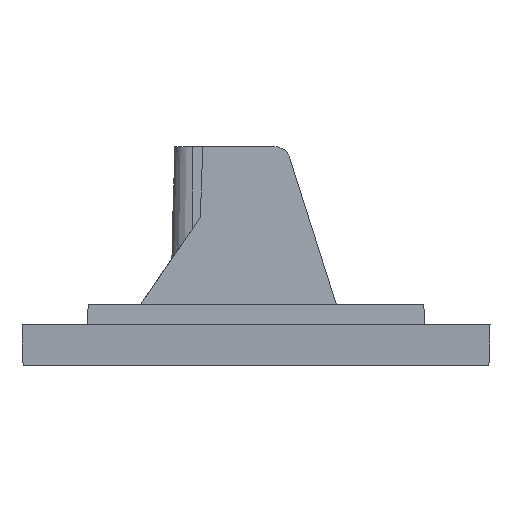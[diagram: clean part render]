
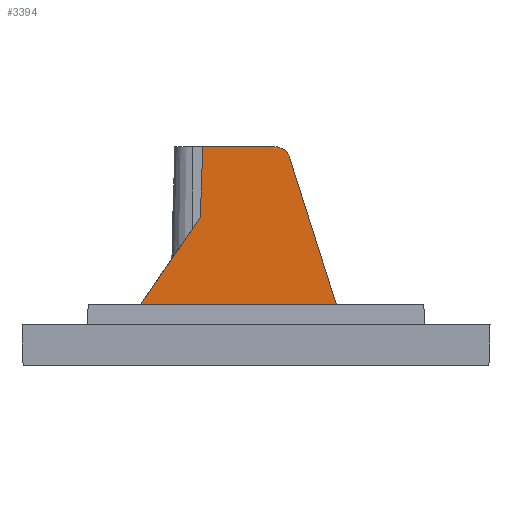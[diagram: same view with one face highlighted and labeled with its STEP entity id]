
A CAD part, left-side view. The second image highlights one B-rep face of the part: STEP entity #3394.
In plain terms, the highlighted planar face has unit normal (-1, 0, 0.026).
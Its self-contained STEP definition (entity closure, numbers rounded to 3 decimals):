
#50 = LINE ( 'NONE', #1092, #2312 ) ;
#68 = VERTEX_POINT ( 'NONE', #3339 ) ;
#111 = ORIENTED_EDGE ( 'NONE', *, *, #1904, .T. ) ;
#122 = VECTOR ( 'NONE', #2472, 1000. ) ;
#151 = CARTESIAN_POINT ( 'NONE',  ( -97.25, 6.228, 43. ) ) ;
#444 = DIRECTION ( 'NONE',  ( -1., 0., 0.026 ) ) ;
#504 = ORIENTED_EDGE ( 'NONE', *, *, #3180, .F. ) ;
#515 = EDGE_CURVE ( 'NONE', #3054, #1942, #50, .T. ) ;
#523 = EDGE_CURVE ( 'NONE', #2910, #1738, #1359, .T. ) ;
#714 = LINE ( 'NONE', #1747, #1153 ) ;
#777 = DIRECTION ( 'NONE',  ( -0.026, 0.035, -0.999 ) ) ;
#866 = CARTESIAN_POINT ( 'NONE',  ( -98.324, 0., 2. ) ) ;
#999 = PLANE ( 'NONE',  #3719 ) ;
#1023 = FACE_OUTER_BOUND ( 'NONE', #3005, .T. ) ;
#1053 = CARTESIAN_POINT ( 'NONE',  ( -97.158, -4.82, 46.5 ) ) ;
#1092 = CARTESIAN_POINT ( 'NONE',  ( -97.246, 10.457, 43.148 ) ) ;
#1107 = LINE ( 'NONE', #3323, #122 ) ;
#1145 = DIRECTION ( 'NONE',  ( 0., -1., 0. ) ) ;
#1153 = VECTOR ( 'NONE', #1459, 1000. ) ;
#1261 = CARTESIAN_POINT ( 'NONE',  ( -97.25, -3.734, 43. ) ) ;
#1289 = CARTESIAN_POINT ( 'NONE',  ( -97.305, -6.593, 40.907 ) ) ;
#1295 = ORIENTED_EDGE ( 'NONE', *, *, #3730, .F. ) ;
#1353 = ORIENTED_EDGE ( 'NONE', *, *, #523, .T. ) ;
#1359 = LINE ( 'NONE', #1053, #3374 ) ;
#1373 = CARTESIAN_POINT ( 'NONE',  ( -97.25, -3.734, 43. ) ) ;
#1459 = DIRECTION ( 'NONE',  ( 0.022, -0.563, 0.826 ) ) ;
#1618 = CARTESIAN_POINT ( 'NONE',  ( -97.305, -6.593, 40.907 ) ) ;
#1648 = VECTOR ( 'NONE', #1145, 1000. ) ;
#1738 = VERTEX_POINT ( 'NONE', #1289 ) ;
#1747 = CARTESIAN_POINT ( 'NONE',  ( -98.308, 29.041, 2.602 ) ) ;
#1904 = EDGE_CURVE ( 'NONE', #68, #2910, #2173, .T. ) ;
#1939 = CARTESIAN_POINT ( 'NONE',  ( -97.25, -5.09, 43. ) ) ;
#1942 = VERTEX_POINT ( 'NONE', #3031 ) ;
#2120 = CARTESIAN_POINT ( 'NONE',  ( -98.324, -18.93, 2. ) ) ;
#2173 = LINE ( 'NONE', #866, #1648 ) ;
#2190 = DIRECTION ( 'NONE',  ( -0.026, 0., -1. ) ) ;
#2312 = VECTOR ( 'NONE', #777, 1000. ) ;
#2472 = DIRECTION ( 'NONE',  ( 0., -1., 0. ) ) ;
#2484 = EDGE_CURVE ( 'NONE', #68, #1942, #714, .T. ) ;
#2585 = DIRECTION ( 'NONE',  ( 0.025, 0.302, 0.953 ) ) ;
#2694 = ORIENTED_EDGE ( 'NONE', *, *, #515, .T. ) ;
#2821 = ORIENTED_EDGE ( 'NONE', *, *, #2484, .F. ) ;
#2840 = CARTESIAN_POINT ( 'NONE',  ( -97.25, 10.462, 43. ) ) ;
#2910 = VERTEX_POINT ( 'NONE', #2120 ) ;
#2988 = VERTEX_POINT ( 'NONE', #1261 ) ;
#3005 = EDGE_LOOP ( 'NONE', ( #1295, #2694, #2821, #111, #1353, #504 ) ) ;
#3031 = CARTESIAN_POINT ( 'NONE',  ( -97.613, 10.946, 29.125 ) ) ;
#3054 = VERTEX_POINT ( 'NONE', #2840 ) ;
#3180 = EDGE_CURVE ( 'NONE', #2988, #1738, #3271, .T. ) ;
#3194 = CARTESIAN_POINT ( 'NONE',  ( -97.271, -6.184, 42.199 ) ) ;
#3271 =( BOUNDED_CURVE ( )  B_SPLINE_CURVE ( 3, ( #1373, #1939, #3194, #1618 ),
 .UNSPECIFIED., .F., .T. ) 
 B_SPLINE_CURVE_WITH_KNOTS ( ( 4, 4 ),
 ( 3.142, 4.405 ),
 .UNSPECIFIED. ) 
 CURVE ( )  GEOMETRIC_REPRESENTATION_ITEM ( )  RATIONAL_B_SPLINE_CURVE ( ( 1., 0.871, 0.871, 1. ) ) 
 REPRESENTATION_ITEM ( '' )  );
#3323 = CARTESIAN_POINT ( 'NONE',  ( -97.25, -6., 43. ) ) ;
#3339 = CARTESIAN_POINT ( 'NONE',  ( -98.324, 29.451, 2. ) ) ;
#3374 = VECTOR ( 'NONE', #2585, 1000. ) ;
#3394 = ADVANCED_FACE ( 'NONE', ( #1023 ), #999, .T. ) ;
#3719 = AXIS2_PLACEMENT_3D ( 'NONE', #151, #444, #2190 ) ;
#3730 = EDGE_CURVE ( 'NONE', #3054, #2988, #1107, .T. ) ;
